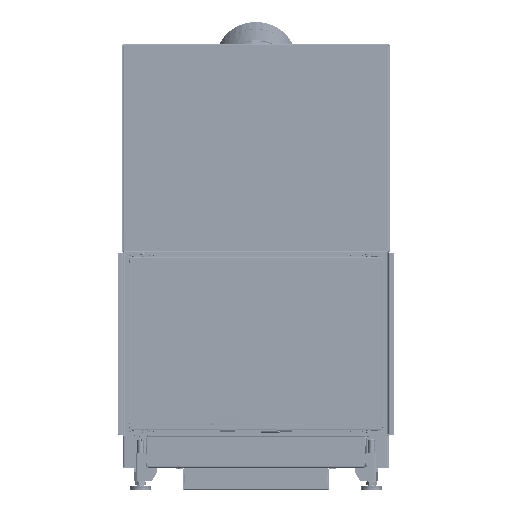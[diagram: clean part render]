
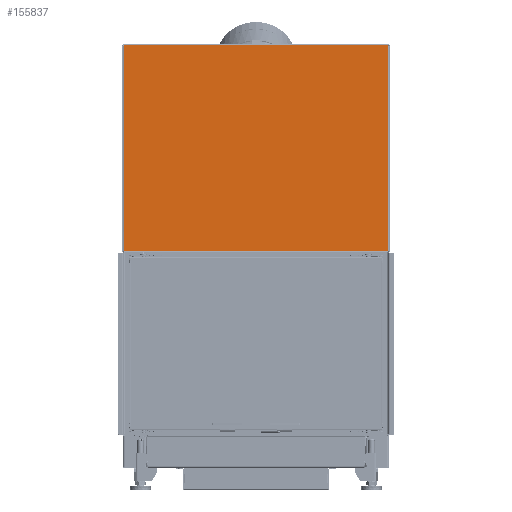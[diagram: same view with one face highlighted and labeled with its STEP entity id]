
A CAD part, front view. The second image highlights one B-rep face of the part: STEP entity #155837.
In plain terms, the highlighted planar face has unit normal (0, -1, 0).
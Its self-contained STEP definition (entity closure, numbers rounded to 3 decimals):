
#8804=PLANE('',#165734);
#18306=FACE_OUTER_BOUND('',#26878,.T.);
#26878=EDGE_LOOP('',(#112708,#112709,#112710,#112711,#112712,#112713));
#37770=LINE('',#238780,#53347);
#37775=LINE('',#238868,#53352);
#37783=LINE('',#239087,#53360);
#37784=LINE('',#239089,#53361);
#37785=LINE('',#239093,#53362);
#37788=LINE('',#239099,#53365);
#53347=VECTOR('',#185917,10.);
#53352=VECTOR('',#185934,10.);
#53360=VECTOR('',#185956,10.);
#53361=VECTOR('',#185959,10.);
#53362=VECTOR('',#185966,10.);
#53365=VECTOR('',#185975,10.);
#69223=VERTEX_POINT('',#238761);
#69224=VERTEX_POINT('',#238772);
#69230=VERTEX_POINT('',#238861);
#69232=VERTEX_POINT('',#238867);
#69241=VERTEX_POINT('',#239078);
#69242=VERTEX_POINT('',#239085);
#85458=EDGE_CURVE('',#69224,#69223,#37770,.T.);
#85470=EDGE_CURVE('',#69232,#69223,#37775,.T.);
#85494=EDGE_CURVE('',#69241,#69242,#37783,.T.);
#85495=EDGE_CURVE('',#69230,#69232,#37784,.T.);
#85497=EDGE_CURVE('',#69242,#69230,#37785,.T.);
#85501=EDGE_CURVE('',#69224,#69241,#37788,.T.);
#112708=ORIENTED_EDGE('',*,*,#85495,.T.);
#112709=ORIENTED_EDGE('',*,*,#85470,.T.);
#112710=ORIENTED_EDGE('',*,*,#85458,.F.);
#112711=ORIENTED_EDGE('',*,*,#85501,.T.);
#112712=ORIENTED_EDGE('',*,*,#85494,.T.);
#112713=ORIENTED_EDGE('',*,*,#85497,.T.);
#155837=ADVANCED_FACE('',(#18306),#8804,.T.);
#165734=AXIS2_PLACEMENT_3D('',#239098,#185973,#185974);
#185917=DIRECTION('',(1.,0.,0.));
#185934=DIRECTION('',(0.,0.,1.));
#185956=DIRECTION('',(0.,0.,-1.));
#185959=DIRECTION('',(0.,0.,1.));
#185966=DIRECTION('',(1.,0.,0.));
#185973=DIRECTION('center_axis',(0.,-1.,0.));
#185974=DIRECTION('ref_axis',(1.,0.,0.));
#185975=DIRECTION('',(0.,0.,-1.));
#238761=CARTESIAN_POINT('',(325.75,-328.5,1042.25));
#238772=CARTESIAN_POINT('',(-325.75,-328.5,1042.25));
#238780=CARTESIAN_POINT('',(0.,-328.5,1042.25));
#238861=CARTESIAN_POINT('',(325.75,-328.5,535.25));
#238867=CARTESIAN_POINT('',(325.75,-328.5,1041.57));
#238868=CARTESIAN_POINT('',(325.75,-328.5,683.846));
#239078=CARTESIAN_POINT('',(-325.75,-328.5,1041.57));
#239085=CARTESIAN_POINT('',(-325.75,-328.5,535.25));
#239087=CARTESIAN_POINT('',(-325.75,-328.5,937.346));
#239089=CARTESIAN_POINT('',(325.75,-328.5,683.846));
#239093=CARTESIAN_POINT('',(164.25,-328.5,535.25));
#239098=CARTESIAN_POINT('Origin',(0.,-328.5,
832.441));
#239099=CARTESIAN_POINT('',(-325.75,-328.5,937.346));
